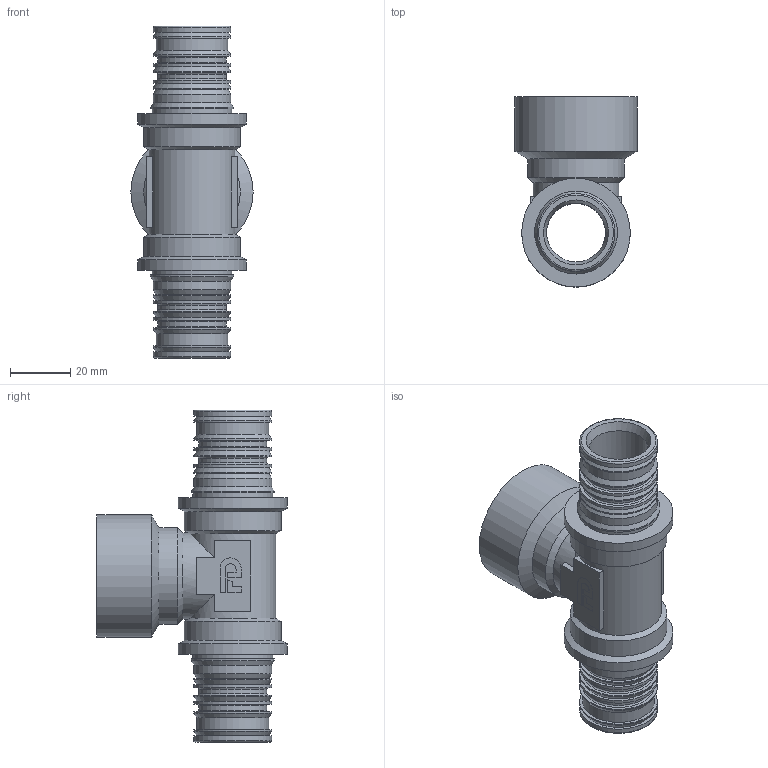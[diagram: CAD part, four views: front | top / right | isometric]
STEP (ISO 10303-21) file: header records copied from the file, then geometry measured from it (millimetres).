
FILE_DESCRIPTION(/* description */ (''),/* implementation_level */ '2;1');
FILE_NAME(/* name */ 'C:\Users\Doom\Desktop\Фадотех\Пресс\HDT17-1 31.03.2020\HDT17-1 31.03.2020.stp',/* time_stamp */ '2022-08-12T18:07:00+03:00',/* author */ ('Doom'),/* organization */ (''),/* preprocessor_version */ 'ST-DEVELOPER v18',/* originating_system */ 'Autodesk Inventor 2020',/* authorisation */ '');
FILE_SCHEMA (('AUTOMOTIVE_DESIGN { 1 0 10303 214 3 1 1 }'));
Length unit declared in the file: millimetre
Products named in the file (1): HDT17-1 31.03.2020
Bounding box: 40.5 x 63 x 110 mm (x, y, z)
Volume: 45893.7 mm3; surface area: 32643.7 mm2
Topology: 2 solids, 2 shells, 171 faces, 481 edges, 340 vertices
Faces by surface type: plane 80, cylinder 46, cone 21, bspline 14, torus 10
Full cylindrical faces by diameter (mm): 19.5 x1, 22.6 x4, 23.8 x2, 25 x1, 25.8 x16, 26.5 x2, 27.5 x2, 28.5 x1, 29.776 x6, 32 x3, 33.2 x2, 36 x2, 40.5 x1
Entity records: 10020 total; most frequent: CARTESIAN_POINT 5427, DIRECTION 960, ORIENTED_EDGE 958, EDGE_CURVE 479, AXIS2_PLACEMENT_3D 380, VERTEX_POINT 339, CIRCLE 218, EDGE_LOOP 204
